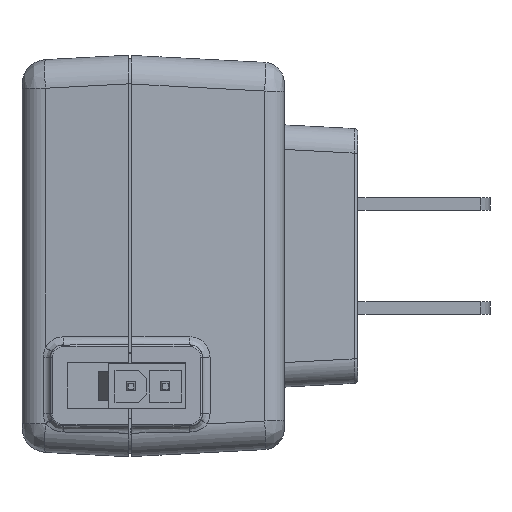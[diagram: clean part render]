
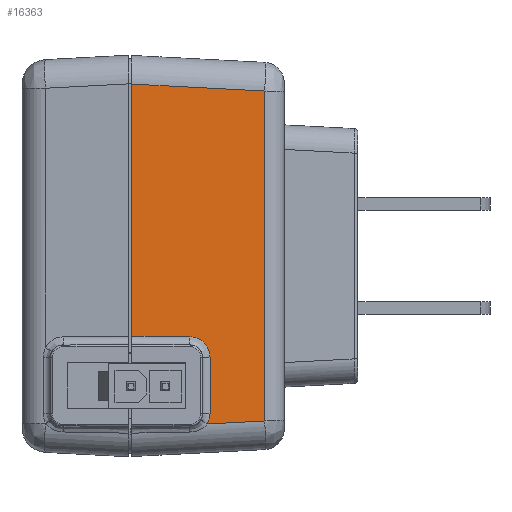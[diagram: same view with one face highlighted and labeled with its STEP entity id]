
A CAD part, left-side view. The second image highlights one B-rep face of the part: STEP entity #16363.
In plain terms, the highlighted planar face has unit normal (-0.999, -0.052, 0).
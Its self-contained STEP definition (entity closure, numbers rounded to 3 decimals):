
#282=DIRECTION('',(0.,0.,1.));
#283=VECTOR('',#282,40.266);
#284=CARTESIAN_POINT('',(-49.128,-16.631,
-20.133));
#285=LINE('',#284,#283);
#323=CARTESIAN_POINT('',(-49.497,-9.605,
-20.501));
#325=DIRECTION('',(0.053,-0.998,0.039));
#326=VECTOR('',#325,0.036);
#327=CARTESIAN_POINT('',(-49.497,-9.605,
-20.501));
#328=LINE('',#327,#326);
#485=CARTESIAN_POINT('',(-49.979,-0.4,
20.984));
#487=DIRECTION('',(0.,0.,-1.));
#488=VECTOR('',#487,30.784);
#489=CARTESIAN_POINT('',(-49.979,-0.4,
20.984));
#490=LINE('',#489,#488);
#6055=DIRECTION('',(0.,0.,-1.));
#6056=VECTOR('',#6055,6.876);
#6057=CARTESIAN_POINT('',(-49.479,-9.948,
-12.362));
#6058=LINE('',#6057,#6056);
#6063=CARTESIAN_POINT('',(-49.497,-9.605,
-20.501));
#6064=CARTESIAN_POINT('',(-49.493,-9.68,
-20.373));
#6065=CARTESIAN_POINT('',(-49.486,-9.805,
-20.108));
#6066=CARTESIAN_POINT('',(-49.48,-9.922,
-19.679));
#6067=CARTESIAN_POINT('',(-49.479,-9.948,
-19.387));
#6068=CARTESIAN_POINT('',(-49.479,-9.948,
-19.238));
#6070=CARTESIAN_POINT('',(-49.479,-9.948,
-12.362));
#6071=CARTESIAN_POINT('',(-49.479,-9.948,
-12.219));
#6072=CARTESIAN_POINT('',(-49.48,-9.924,
-11.937));
#6073=CARTESIAN_POINT('',(-49.486,-9.813,
-11.513));
#6074=CARTESIAN_POINT('',(-49.495,-9.628,
-11.114));
#6075=CARTESIAN_POINT('',(-49.508,-9.38,
-10.756));
#6076=CARTESIAN_POINT('',(-49.524,-9.074,
-10.446));
#6077=CARTESIAN_POINT('',(-49.543,-8.719,
-10.194));
#6078=CARTESIAN_POINT('',(-49.564,-8.321,
-10.005));
#6079=CARTESIAN_POINT('',(-49.586,-7.897,
-9.89));
#6080=CARTESIAN_POINT('',(-49.601,-7.613,
-9.863));
#6081=CARTESIAN_POINT('',(-49.609,-7.469,
-9.862));
#6083=DIRECTION('',(-0.052,0.999,0.009));
#6084=VECTOR('',#6083,7.079);
#6085=CARTESIAN_POINT('',(-49.609,-7.469,
-9.862));
#6086=LINE('',#6085,#6084);
#6087=DIRECTION('',(0.052,-0.997,-0.052));
#6088=VECTOR('',#6087,16.275);
#6089=CARTESIAN_POINT('',(-49.979,-0.4,
20.984));
#6090=LINE('',#6089,#6088);
#6091=DIRECTION('',(-0.052,0.997,-0.052));
#6092=VECTOR('',#6091,7.009);
#6093=CARTESIAN_POINT('',(-49.128,-16.631,
-20.133));
#6094=LINE('',#6093,#6092);
#7254=CARTESIAN_POINT('',(-49.128,-16.631,
20.133));
#7255=VERTEX_POINT('',#7254);
#7256=CARTESIAN_POINT('',(-49.128,-16.631,
-20.133));
#7257=VERTEX_POINT('',#7256);
#7260=VERTEX_POINT('',#323);
#7261=CARTESIAN_POINT('',(-49.495,-9.641,
-20.5));
#7262=VERTEX_POINT('',#7261);
#7298=VERTEX_POINT('',#485);
#7299=CARTESIAN_POINT('',(-49.979,-0.4,
-9.801));
#7300=VERTEX_POINT('',#7299);
#8514=CARTESIAN_POINT('',(-49.479,-9.948,
-12.362));
#8515=CARTESIAN_POINT('',(-49.479,-9.948,
-19.238));
#8516=VERTEX_POINT('',#8514);
#8517=VERTEX_POINT('',#8515);
#8518=VERTEX_POINT('',#6081);
#16343=CARTESIAN_POINT('',(-49.554,-8.515,
0.241));
#16344=DIRECTION('',(0.999,0.052,0.));
#16345=DIRECTION('',(0.,0.,1.));
#16346=AXIS2_PLACEMENT_3D('',#16343,#16344,#16345);
#16347=PLANE('',#16346);
#16349=ORIENTED_EDGE('',*,*,#16348,.T.);
#16350=ORIENTED_EDGE('',*,*,#16333,.F.);
#16352=ORIENTED_EDGE('',*,*,#16351,.T.);
#16354=ORIENTED_EDGE('',*,*,#16353,.T.);
#16355=ORIENTED_EDGE('',*,*,#9005,.F.);
#16357=ORIENTED_EDGE('',*,*,#16356,.T.);
#16358=ORIENTED_EDGE('',*,*,#8871,.F.);
#16359=ORIENTED_EDGE('',*,*,#8913,.T.);
#16360=ORIENTED_EDGE('',*,*,#8911,.F.);
#16361=EDGE_LOOP('',(#16349,#16350,#16352,#16354,#16355,#16357,#16358,#16359,
#16360));
#16362=FACE_OUTER_BOUND('',#16361,.F.);
#16363=ADVANCED_FACE('',(#16362),#16347,.F.);
#6069=B_SPLINE_CURVE_WITH_KNOTS('',3,(#6063,#6064,#6065,#6066,#6067,#6068),
.UNSPECIFIED.,.F.,.F.,(4,1,1,4),(0.,0.333,0.667,1.),
.UNSPECIFIED.);
#6082=B_SPLINE_CURVE_WITH_KNOTS('',3,(#6070,#6071,#6072,#6073,#6074,#6075,#6076,
#6077,#6078,#6079,#6080,#6081),.UNSPECIFIED.,.F.,.F.,(4,1,1,1,1,1,1,1,1,4),
(0.,0.111,0.222,0.333,0.444,
0.556,0.667,0.778,0.889,1.),
.UNSPECIFIED.);
#8871=EDGE_CURVE('',#7257,#7255,#285,.T.);
#8911=EDGE_CURVE('',#7260,#7262,#328,.T.);
#8913=EDGE_CURVE('',#7257,#7262,#6094,.T.);
#9005=EDGE_CURVE('',#7298,#7300,#490,.T.);
#16333=EDGE_CURVE('',#8516,#8517,#6058,.T.);
#16348=EDGE_CURVE('',#7260,#8517,#6069,.T.);
#16351=EDGE_CURVE('',#8516,#8518,#6082,.T.);
#16353=EDGE_CURVE('',#8518,#7300,#6086,.T.);
#16356=EDGE_CURVE('',#7298,#7255,#6090,.T.);
